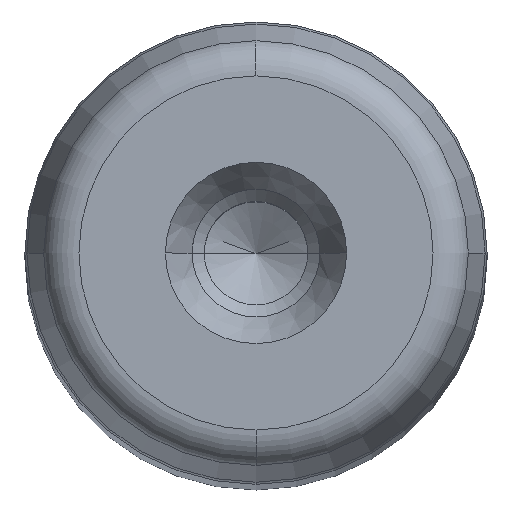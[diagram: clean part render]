
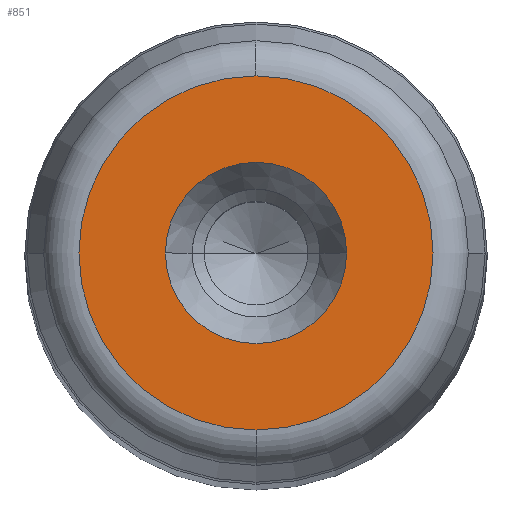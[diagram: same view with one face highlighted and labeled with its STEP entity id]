
A CAD part, top view. The second image highlights one B-rep face of the part: STEP entity #851.
In plain terms, the highlighted planar face has unit normal (0, 0, 1) as drawn and (0, 1, 0) by its records, which use the part's own axes.
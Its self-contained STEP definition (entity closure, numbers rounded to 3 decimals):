
#281=CARTESIAN_POINT('',(7.45,280.0,0.0));
#282=VERTEX_POINT('',#281);
#289=CARTESIAN_POINT('',(-7.45,280.0,0.));
#290=VERTEX_POINT('',#289);
#291=CARTESIAN_POINT('',(0.0,280.0,0.0));
#292=DIRECTION('',(0.0,1.0,0.0));
#293=DIRECTION('',(1.0,0.0,0.0));
#294=AXIS2_PLACEMENT_3D('',#291,#292,#293);
#295=CIRCLE('',#294,7.45);
#296=EDGE_CURVE('',#282,#290,#295,.T.);
#313=CARTESIAN_POINT('',(0.0,280.,14.554));
#314=VERTEX_POINT('',#313);
#324=CARTESIAN_POINT('',(0.,280.,-14.554));
#325=VERTEX_POINT('',#324);
#326=CARTESIAN_POINT('',(0.0,280.,0.0));
#327=DIRECTION('',(0.0,1.0,0.0));
#328=DIRECTION('',(1.0,0.0,0.0));
#329=AXIS2_PLACEMENT_3D('',#326,#327,#328);
#330=CIRCLE('',#329,14.554);
#331=EDGE_CURVE('',#325,#314,#330,.T.);
#812=CARTESIAN_POINT('',(14.554,280.,0.0));
#813=VERTEX_POINT('',#812);
#814=CARTESIAN_POINT('',(0.0,280.,0.0));
#815=DIRECTION('',(0.0,1.0,0.0));
#816=DIRECTION('',(1.0,0.0,0.0));
#817=AXIS2_PLACEMENT_3D('',#814,#815,#816);
#818=CIRCLE('',#817,14.554);
#819=EDGE_CURVE('',#813,#325,#818,.T.);
#821=CARTESIAN_POINT('',(0.0,280.,0.0));
#822=DIRECTION('',(0.0,1.0,0.0));
#823=DIRECTION('',(1.0,0.0,0.0));
#824=AXIS2_PLACEMENT_3D('',#821,#822,#823);
#825=CIRCLE('',#824,14.554);
#826=EDGE_CURVE('',#314,#813,#825,.T.);
#831=CARTESIAN_POINT('',(-16.01,280.0,-16.01));
#832=DIRECTION('',(0.0,1.0,0.0));
#833=DIRECTION('',(0.0,0.0,1.0));
#834=AXIS2_PLACEMENT_3D('',#831,#832,#833);
#835=PLANE('',#834);
#836=ORIENTED_EDGE('',*,*,#819,.T.);
#837=ORIENTED_EDGE('',*,*,#331,.T.);
#838=ORIENTED_EDGE('',*,*,#826,.T.);
#839=EDGE_LOOP('',(#836,#837,#838));
#840=FACE_OUTER_BOUND('',#839,.T.);
#841=ORIENTED_EDGE('',*,*,#296,.F.);
#842=CARTESIAN_POINT('',(0.0,280.0,0.0));
#843=DIRECTION('',(0.0,1.0,0.0));
#844=DIRECTION('',(1.0,0.0,0.0));
#845=AXIS2_PLACEMENT_3D('',#842,#843,#844);
#846=CIRCLE('',#845,7.45);
#847=EDGE_CURVE('',#290,#282,#846,.T.);
#848=ORIENTED_EDGE('',*,*,#847,.F.);
#849=EDGE_LOOP('',(#841,#848));
#850=FACE_BOUND('',#849,.T.);
#851=ADVANCED_FACE('',(#840,#850),#835,.T.);
